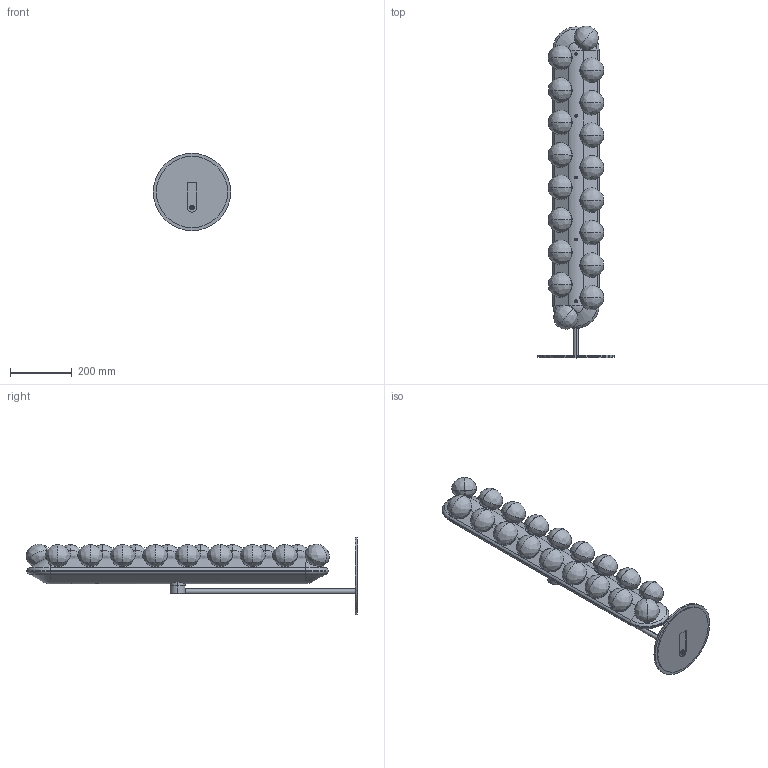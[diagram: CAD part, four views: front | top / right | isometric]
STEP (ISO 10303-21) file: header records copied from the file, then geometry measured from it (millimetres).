
FILE_DESCRIPTION (( 'STEP AP214' ), '1' );
FILE_NAME ('Proplight_4000_floor.STEP', '2014-08-28T10:12:42', ( '' ), ( '' ), 'SwSTEP 2.0', 'SolidWorks 2014', '' );
FILE_SCHEMA (( 'AUTOMOTIVE_DESIGN' ));
Length unit declared in the file: millimetre
Products named in the file (1): Proplight_4000_floor
Bounding box: 250 x 1073.15 x 250 mm (x, y, z)
Volume: 2234636.3 mm3; surface area: 1594184.8 mm2
Topology: 56 solids, 56 shells, 1874 faces, 4813 edges, 2981 vertices
Faces by surface type: plane 677, cylinder 435, bspline 272, torus 229, cone 173, sphere 88
Entity records: 125068 total; most frequent: CARTESIAN_POINT 61186, ORIENTED_EDGE 9426, DIRECTION 8536, EDGE_CURVE 4713, AXIS2_PLACEMENT_3D 3446, VERTEX_POINT 2981, EDGE_LOOP 2028, UNCERTAINTY_MEASURE_WITH_UNIT 1932
